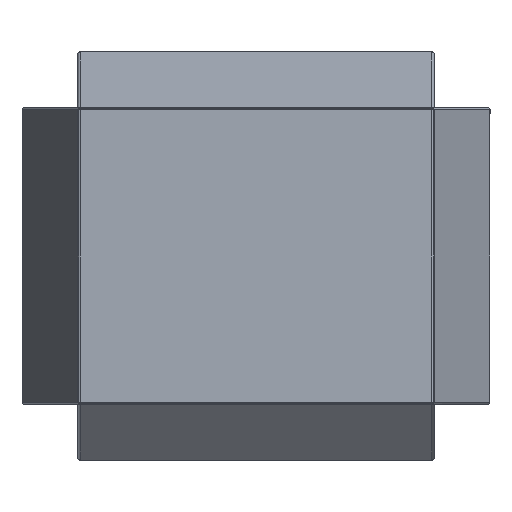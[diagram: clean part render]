
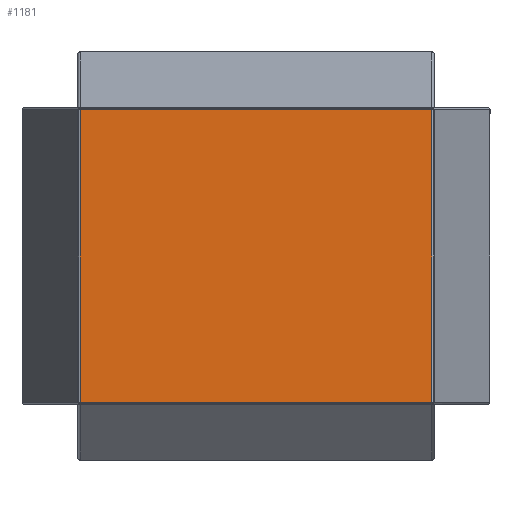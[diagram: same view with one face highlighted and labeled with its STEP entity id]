
A CAD part, front view. The second image highlights one B-rep face of the part: STEP entity #1181.
In plain terms, the highlighted planar face has unit normal (0, -1, 0).
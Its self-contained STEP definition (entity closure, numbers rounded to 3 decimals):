
#9 = CARTESIAN_POINT ( 'NONE',  ( 148., 0., -123. ) ) ;
#30 = EDGE_CURVE ( 'NONE', #589, #97, #1134, .T. ) ;
#68 = CARTESIAN_POINT ( 'NONE',  ( -148., 0., -123. ) ) ;
#97 = VERTEX_POINT ( 'NONE', #1968 ) ;
#151 = VECTOR ( 'NONE', #538, 1000. ) ;
#157 = ORIENTED_EDGE ( 'NONE', *, *, #30, .T. ) ;
#255 = VECTOR ( 'NONE', #1280, 1000. ) ;
#322 = ORIENTED_EDGE ( 'NONE', *, *, #2319, .T. ) ;
#531 = VERTEX_POINT ( 'NONE', #9 ) ;
#538 = DIRECTION ( 'NONE',  ( 0., 0., 1. ) ) ;
#589 = VERTEX_POINT ( 'NONE', #1023 ) ;
#598 = CARTESIAN_POINT ( 'NONE',  ( -148., 0., 123. ) ) ;
#620 = FACE_OUTER_BOUND ( 'NONE', #2814, .T. ) ;
#695 = ORIENTED_EDGE ( 'NONE', *, *, #1495, .T. ) ;
#884 = DIRECTION ( 'NONE',  ( -1., 0., 0. ) ) ;
#1023 = CARTESIAN_POINT ( 'NONE',  ( 148., 0., 123. ) ) ;
#1100 = DIRECTION ( 'NONE',  ( 0., 0., -1. ) ) ;
#1102 = DIRECTION ( 'NONE',  ( 0., 0., 1. ) ) ;
#1121 = CARTESIAN_POINT ( 'NONE',  ( 0., 0., 0. ) ) ;
#1134 = LINE ( 'NONE', #3113, #2535 ) ;
#1178 = ORIENTED_EDGE ( 'NONE', *, *, #1649, .T. ) ;
#1181 = ADVANCED_FACE ( 'NONE', ( #620 ), #3144, .F. ) ;
#1280 = DIRECTION ( 'NONE',  ( 1., 0., 0. ) ) ;
#1495 = EDGE_CURVE ( 'NONE', #531, #589, #2244, .T. ) ;
#1560 = LINE ( 'NONE', #68, #255 ) ;
#1649 = EDGE_CURVE ( 'NONE', #97, #2556, #3143, .T. ) ;
#1651 = DIRECTION ( 'NONE',  ( 0., 1., 0. ) ) ;
#1968 = CARTESIAN_POINT ( 'NONE',  ( -148., 0., 123. ) ) ;
#2017 = VECTOR ( 'NONE', #1100, 1000. ) ;
#2171 = AXIS2_PLACEMENT_3D ( 'NONE', #1121, #1651, #1102 ) ;
#2244 = LINE ( 'NONE', #2993, #151 ) ;
#2319 = EDGE_CURVE ( 'NONE', #2556, #531, #1560, .T. ) ;
#2535 = VECTOR ( 'NONE', #884, 1000. ) ;
#2556 = VERTEX_POINT ( 'NONE', #2622 ) ;
#2622 = CARTESIAN_POINT ( 'NONE',  ( -148., 0., -123. ) ) ;
#2814 = EDGE_LOOP ( 'NONE', ( #322, #695, #157, #1178 ) ) ;
#2993 = CARTESIAN_POINT ( 'NONE',  ( 148., 0., -123. ) ) ;
#3113 = CARTESIAN_POINT ( 'NONE',  ( 148., 0., 123. ) ) ;
#3143 = LINE ( 'NONE', #598, #2017 ) ;
#3144 = PLANE ( 'NONE',  #2171 ) ;
